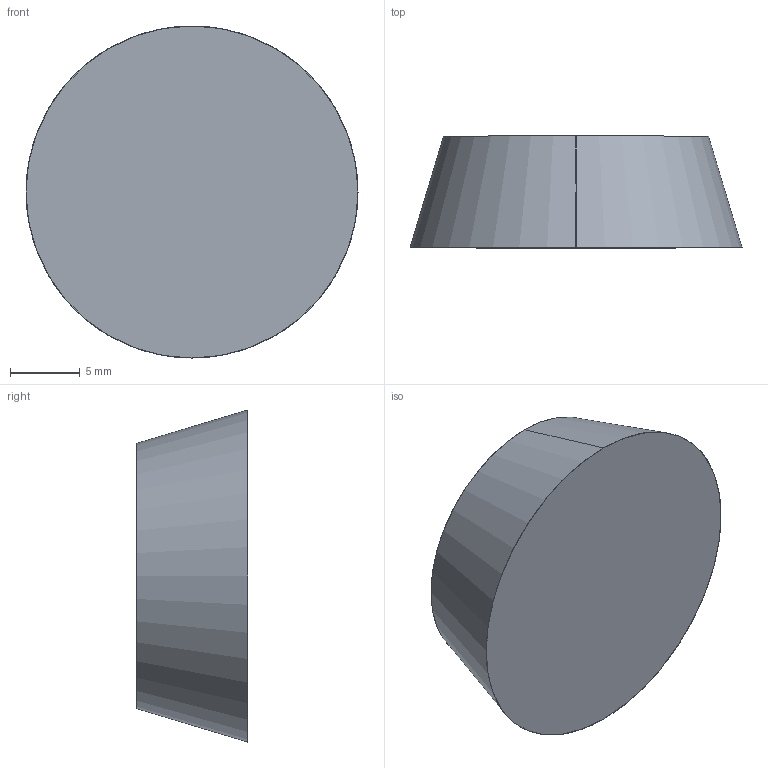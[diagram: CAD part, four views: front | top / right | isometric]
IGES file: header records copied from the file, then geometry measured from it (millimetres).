
Start section: SolidWorks IGES file using analytic representation for surfaces
Global section: file name: C:\Users\cbrechard.SAV\Desktop\GE 82\82(empreinte tête).IGS; native system: SolidWorks 2013; preprocessor: SolidWorks 2013; author: cbrechard; date: 151201.160545; units: millimetre
Bounding box: 23.8 x 8 x 23.8 mm (x, y, z)
Surface area: 1355.9 mm2 (no closed solid volume)
Topology: 0 solids, 0 shells, 9 faces, 96 edges, 96 vertices
Faces by surface type: bspline 7, revolution 2
